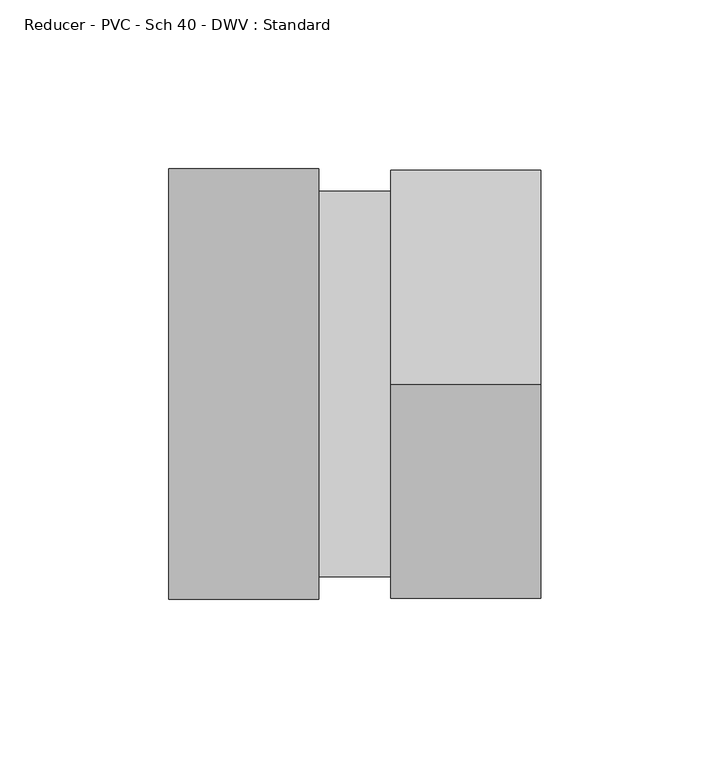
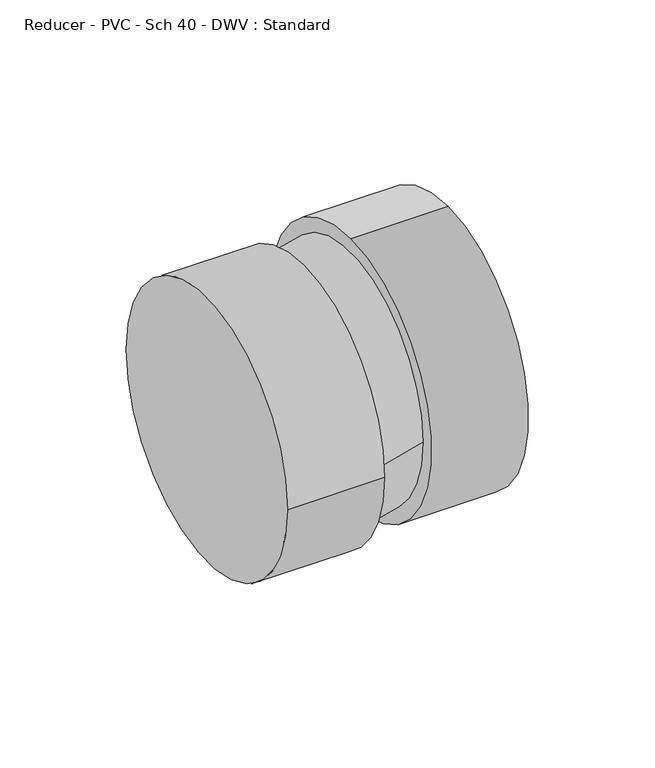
"""IFC4 building model written with IfcOpenShell, lengths in millimetres: pipe fitting geometry, Reducer - PVC - Sch 40 - DWV : Standard."""

from ifc_helpers import new_model, si_unit, point, frame, origin, place, context, project, spatial, circle_curve, trimmed, source, transform, mapped, element, save
from ifc_brep_helpers import plane_surface, cylinder_surface, extruded_surface, advanced_brep


def reducer_pvc_sch_40_dwv_standard_cf0626e5(model_context):
    return source(origin(), model_context, "Body", "AdvancedBrep", [
        advanced_brep(
        [(0.0, -63.754, 0.0), (0.0, 63.754, 0.0), (44.45, -63.754, 0.0), (44.45, 63.754, 0.0), (44.45, 57.15, 0.0), (44.45, -57.15, 0.0), (65.7740938, 57.1266763, 5.4059101), (65.7740938, -57.1733237, 5.4059101), (65.7740938, -0.0233237, 69.1599101), (65.7740938, -0.0233237, -58.3480899), (110.2240938, -0.0233237, 69.1599101), (110.2240938, -0.0233237, -58.3480899)],
        [
            (0, 1, circle_curve(frame((0.0, 0.0, 0.0), z_axis=(-1.0, 0.0, 0.0), x_axis=(0.0, 1.0, 0.0)), 63.754)),
            (1, 0, circle_curve(frame((0.0, 0.0, 0.0), z_axis=(-1.0, 0.0, 0.0), x_axis=(0.0, 1.0, 0.0)), 63.754)),
            (2, 3, circle_curve(frame((44.45, 0.0, 0.0), z_axis=(1.0, 0.0, 0.0), x_axis=(0.0, 1.0, 0.0)), 63.754)),
            (3, 2, circle_curve(frame((44.45, 0.0, 0.0), z_axis=(1.0, 0.0, 0.0), x_axis=(0.0, 1.0, 0.0)), 63.754)),
            (4, 5, circle_curve(frame((44.45, 0.0, 0.0), z_axis=(-1.0, 0.0, 0.0), x_axis=(0.0, 1.0, 0.0)), 57.15)),
            (5, 4, circle_curve(frame((44.45, 0.0, 0.0), z_axis=(-1.0, 0.0, 0.0), x_axis=(0.0, 1.0, 0.0)), 57.15)),
            (0, 2),
            (3, 1),
            (4, 6),
            (6, 7, circle_curve(frame((65.7740938, -0.0233237, 5.4059101), z_axis=(-1.0, 0.0, 0.0), x_axis=(0.0, 1.0, 0.0)), 57.15)),
            (7, 5),
            (7, 6, circle_curve(frame((65.7740938, -0.0233237, 5.4059101), z_axis=(-1.0, 0.0, 0.0), x_axis=(0.0, 1.0, 0.0)), 57.15)),
            (8, 9, circle_curve(frame((65.7740938, -0.0233237, 5.4059101), z_axis=(-1.0, 0.0, 0.0), x_axis=(0.0, 0.0, -1.0)), 63.754)),
            (9, 8, circle_curve(frame((65.7740938, -0.0233237, 5.4059101), z_axis=(-1.0, 0.0, 0.0), x_axis=(0.0, 0.0, -1.0)), 63.754)),
            (10, 11, circle_curve(frame((110.2240938, -0.0233237, 5.4059101), z_axis=(1.0, 0.0, 0.0), x_axis=(0.0, 0.0, -1.0)), 63.754)),
            (11, 10, circle_curve(frame((110.2240938, -0.0233237, 5.4059101), z_axis=(1.0, 0.0, 0.0), x_axis=(0.0, 0.0, -1.0)), 63.754)),
            (8, 10),
            (11, 9),
        ],
        [
            plane_surface(frame((0.0, 0.0, 0.0), z_axis=(-1.0, 0.0, 0.0), x_axis=(0.0, 0.0, 1.0))),
            plane_surface(frame((44.45, 0.0, 0.0), z_axis=(1.0, 0.0, 0.0), x_axis=(0.0, 0.0, 1.0))),
            cylinder_surface(frame((0.0, 0.0, 0.0), z_axis=(-1.0, 0.0, 0.0), x_axis=(0.0, 1.0, 0.0)), 63.754),
            extruded_surface(trimmed(circle_curve(frame((44.45, 0.0, 0.0), z_axis=(1.0, 0.0, 0.0), x_axis=(0.0, 1.0, 0.0)), 57.15), [point((44.45, -57.15, 0.0))], [point((44.45, 57.15, 0.0))], True, "CARTESIAN"), (21.3240938, -0.0233237, 5.4059101), 21.998667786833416),
            extruded_surface(trimmed(circle_curve(frame((44.45, 0.0, 0.0), z_axis=(1.0, 0.0, 0.0), x_axis=(0.0, 1.0, 0.0)), 57.15), [point((44.45, 57.15, 0.0))], [point((44.45, -57.15, 0.0))], True, "CARTESIAN"), (21.3240938, -0.0233237, 5.4059101), 21.998667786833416),
            plane_surface(frame((65.7740938, -0.0233237, 5.4059101), z_axis=(-1.0, 0.0, 0.0), x_axis=(0.0, 1.0, 0.0))),
            plane_surface(frame((110.2240938, -0.0233237, 5.4059101), z_axis=(1.0, 0.0, 0.0), x_axis=(0.0, 1.0, 0.0))),
            cylinder_surface(frame((65.7740938, -0.0233237, 5.4059101), z_axis=(-1.0, 0.0, 0.0), x_axis=(0.0, 0.0, -1.0)), 63.754),
        ],
        [
            (0, [[1, 2]]),
            (1, [[3, 4], [5, 6]]),
            (2, [[-1, 7, -4, 8]]),
            (2, [[-2, -8, -3, -7]]),
            (3, [[9, 10, 11, -5]]),
            (4, [[-9, -6, -11, 12]]),
            (5, [[13, 14], [-10, -12]]),
            (6, [[15, 16]]),
            (7, [[-13, 17, -16, 18]]),
            (7, [[-14, -18, -15, -17]]),
        ],
    ),
    ])


if __name__ == "__main__":
    model = new_model("IFC4")
    model_context = context("Model", 3, world=origin())
    ifc_project = project(units=[si_unit("LENGTHUNIT", "METRE", prefix="MILLI")], contexts=[model_context])
    site = spatial("IfcSite", under=ifc_project)
    building = spatial("IfcBuilding", under=site)
    placement = place(None, origin())
    reducer_pvc_sch_40_dwv_standard_shape = reducer_pvc_sch_40_dwv_standard_cf0626e5(model_context)
    element("IfcPipeFitting", 1, ObjectType="Reducer - PVC - Sch 40 - DWV : Standard", at=placement, inside=building, context=model_context, shape_type="MappedRepresentation", body=[
        mapped(reducer_pvc_sch_40_dwv_standard_shape, transform((0.0, 0.0, 0.0), x_axis=(1.0, 0.0, 0.0), y_axis=(0.0, 1.0, 0.0), z_axis=(0.0, 0.0, 1.0))),
    ])
    save(model, "model.ifc")
